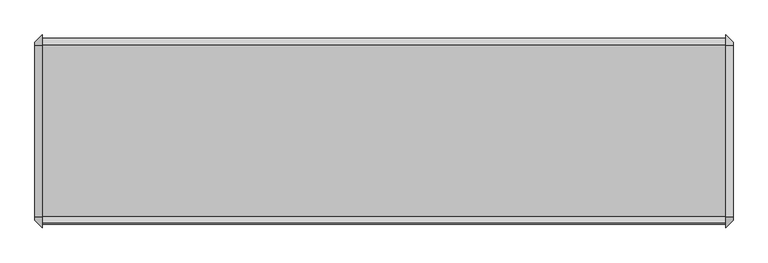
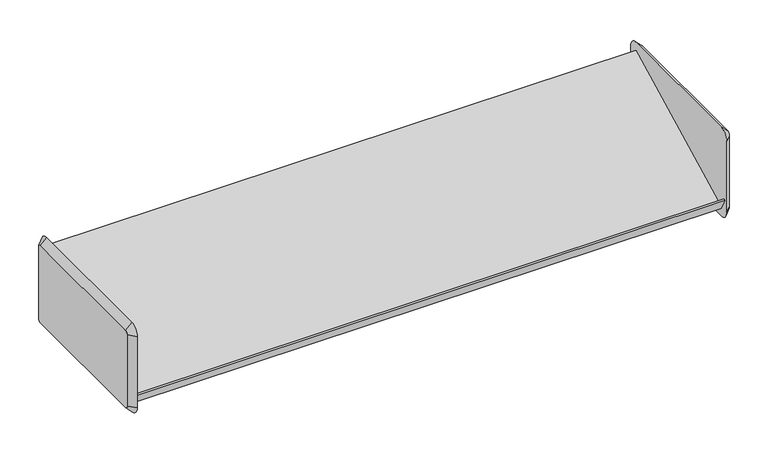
"""IFC4 building model written with IfcOpenShell, lengths in millimetres: furniture geometry."""

from ifc_helpers import new_model, si_unit, frame, origin, place, context, project, spatial, polyline, circle_curve, outline, extrude, source, transform, mapped, element, save
from ifc_brep_helpers import plane_surface, revolved_surface, advanced_brep


def furniture_1bbfda2c(model_context):
    return source(origin(), model_context, "Body", "SolidModel", [
        advanced_brep(
        [(485.6579955, 161.925, 1816.1), (485.6579955, -136.525, 1816.1), (485.6579955, -142.875, 1809.75), (485.6579955, -142.875, 1657.35), (485.6579955, -136.525, 1651.0), (485.6579955, 161.925, 1651.0), (485.6579955, 168.275, 1657.35), (485.6579955, 168.275, 1809.75), (472.9579955, 161.925, 1828.8), (472.9579955, 180.975, 1809.75), (472.9579955, 180.975, 1657.35), (472.9579955, 161.925, 1638.3), (472.9579955, -136.525, 1638.3), (472.9579955, -155.575, 1657.35), (472.9579955, -155.575, 1809.75), (472.9579955, -136.525, 1828.8)],
        [
            (0, 1),
            (1, 2, circle_curve(frame((485.6579955, -136.525, 1809.75), z_axis=(1.0, 2.0730084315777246e-12, -2.1529444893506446e-12), x_axis=(2.15291077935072e-12, 0.0, 1.0)), 6.35)),
            (2, 3),
            (3, 4, circle_curve(frame((485.6579955, -136.525, 1657.35), z_axis=(1.0, 2.0596857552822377e-12, 2.046363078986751e-12), x_axis=(2.059647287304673e-12, -1.0, 0.0)), 6.35)),
            (4, 5),
            (5, 6, circle_curve(frame((485.6579955, 161.925, 1657.35), z_axis=(1.0, 2.0889956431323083e-12, -2.06767936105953e-12), x_axis=(-2.0676547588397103e-12, 0.0, -1.0)), 6.35)),
            (6, 7),
            (7, 0, circle_curve(frame((485.6579955, 161.925, 1809.75), z_axis=(1.0, 2.0756729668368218e-12, 1.9824142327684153e-12), x_axis=(-2.0756622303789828e-12, 1.0, 0.0)), 6.35)),
            (8, 9, circle_curve(frame((472.9579955, 161.925, 1809.75), z_axis=(-1.0, -2.0756729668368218e-12, -1.9824142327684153e-12), x_axis=(-2.0756622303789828e-12, 1.0, 0.0)), 19.05)),
            (9, 10),
            (10, 11, circle_curve(frame((472.9579955, 161.925, 1657.35), z_axis=(-1.0, -2.0889956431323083e-12, 2.06767936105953e-12), x_axis=(-2.0676547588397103e-12, 0.0, -1.0)), 19.05)),
            (11, 12),
            (12, 13, circle_curve(frame((472.9579955, -136.525, 1657.35), z_axis=(-1.0, -2.0596857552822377e-12, -2.046363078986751e-12), x_axis=(2.059647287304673e-12, -1.0, 0.0)), 19.05)),
            (13, 14),
            (14, 15, circle_curve(frame((472.9579955, -136.525, 1809.75), z_axis=(-1.0, -2.0730084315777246e-12, 2.1529444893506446e-12), x_axis=(2.15291077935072e-12, 0.0, 1.0)), 19.05)),
            (15, 8),
            (15, 1),
            (0, 8),
            (14, 2),
            (13, 3),
            (12, 4),
            (11, 5),
            (10, 6),
            (9, 7),
        ],
        [
            plane_surface(frame((485.6579955, 12.7, 1733.55), z_axis=(1.0, 0.0, 0.0), x_axis=(0.0, -1.0, 0.0))),
            plane_surface(frame((472.9579955, 12.7, 1733.55), z_axis=(-1.0, 0.0, 0.0), x_axis=(0.0, -1.0, 0.0))),
            plane_surface(frame((472.9579955, 12.7, 1828.8), z_axis=(0.7071067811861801, 0.0, 0.707106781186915), x_axis=(0.0, -1.0, 0.0))),
            revolved_surface(polyline([(485.6579955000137, -136.525, 1816.0999999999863), (472.9579955, -136.525, 1828.8)]), (492.0079955, -136.525, 1809.75), (-1.0, -2.0730084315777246e-12, 2.1529444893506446e-12)),
            plane_surface(frame((472.9579955, -155.575, 1733.55), z_axis=(0.7071067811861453, -0.7071067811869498, 0.0), x_axis=(0.0, 0.0, -1.0))),
            revolved_surface(polyline([(485.6579955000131, -142.87499999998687, 1657.35), (472.9579955, -155.575, 1657.35)]), (492.0079955, -136.525, 1657.35), (-1.0, -2.0596857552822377e-12, -2.046363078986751e-12)),
            plane_surface(frame((472.9579955, 12.7, 1638.3), z_axis=(0.7071067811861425, 0.0, -0.7071067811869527), x_axis=(0.0, 1.0, 0.0))),
            revolved_surface(polyline([(485.65799550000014, 161.925, 1651.0), (472.9579954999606, 161.925, 1638.2999999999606)]), (492.0079955, 161.925, 1657.35), (-1.0, -2.0889956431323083e-12, 2.06767936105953e-12)),
            plane_surface(frame((472.9579955, 180.975, 1733.55), z_axis=(0.7071067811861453, 0.7071067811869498, 0.0), x_axis=(0.0, 0.0, 1.0))),
            revolved_surface(polyline([(485.6579955, 168.27499999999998, 1809.75), (472.9579954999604, 180.97500000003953, 1809.75)]), (492.0079955, 161.925, 1809.75), (-1.0, -2.0756729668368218e-12, -1.9824142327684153e-12)),
        ],
        [
            (0, [[1, 2, 3, 4, 5, 6, 7, 8]]),
            (1, [[9, 10, 11, 12, 13, 14, 15, 16]]),
            (2, [[-16, 17, -1, 18]]),
            (3, [[-15, 19, -2, -17]]),
            (4, [[-14, 20, -3, -19]]),
            (5, [[-13, 21, -4, -20]]),
            (6, [[-12, 22, -5, -21]]),
            (7, [[-11, 23, -6, -22]]),
            (8, [[-10, 24, -7, -23]]),
            (9, [[-9, -18, -8, -24]]),
        ],
    ),
        advanced_brep(
        [(-733.5420045, -136.525, 1816.1), (-733.5420045, 161.925, 1816.1), (-733.5420045, 168.275, 1809.75), (-733.5420045, 168.275, 1657.35), (-733.5420045, 161.925, 1651.0), (-733.5420045, -136.525, 1651.0), (-733.5420045, -142.875, 1657.35), (-733.5420045, -142.875, 1809.75), (-720.8420045, -136.525, 1828.8), (-720.8420045, -155.575, 1809.75), (-720.8420045, -155.575, 1657.35), (-720.8420045, -136.525, 1638.3), (-720.8420045, 161.925, 1638.3), (-720.8420045, 180.975, 1657.35), (-720.8420045, 180.975, 1809.75), (-720.8420045, 161.925, 1828.8)],
        [
            (0, 1),
            (1, 2, circle_curve(frame((-733.5420045, 161.925, 1809.75), z_axis=(-1.0, 0.0, 0.0), x_axis=(0.0, 0.0, 1.0)), 6.35)),
            (2, 3),
            (3, 4, circle_curve(frame((-733.5420045, 161.925, 1657.35), z_axis=(-1.0, 0.0, 0.0), x_axis=(0.0, 1.0, 0.0)), 6.35)),
            (4, 5),
            (5, 6, circle_curve(frame((-733.5420045, -136.525, 1657.35), z_axis=(-1.0, 0.0, 0.0), x_axis=(0.0, 0.0, -1.0)), 6.35)),
            (6, 7),
            (7, 0, circle_curve(frame((-733.5420045, -136.525, 1809.75), z_axis=(-1.0, 0.0, 0.0), x_axis=(0.0, -1.0, 0.0)), 6.35)),
            (8, 9, circle_curve(frame((-720.8420045, -136.525, 1809.75), z_axis=(1.0, 0.0, 0.0), x_axis=(0.0, -1.0, 0.0)), 19.05)),
            (9, 10),
            (10, 11, circle_curve(frame((-720.8420045, -136.525, 1657.35), z_axis=(1.0, 0.0, 0.0), x_axis=(0.0, 0.0, -1.0)), 19.05)),
            (11, 12),
            (12, 13, circle_curve(frame((-720.8420045, 161.925, 1657.35), z_axis=(1.0, 0.0, 0.0), x_axis=(0.0, 1.0, 0.0)), 19.05)),
            (13, 14),
            (14, 15, circle_curve(frame((-720.8420045, 161.925, 1809.75), z_axis=(1.0, 0.0, 0.0), x_axis=(0.0, 0.0, 1.0)), 19.05)),
            (15, 8),
            (15, 1),
            (0, 8),
            (14, 2),
            (13, 3),
            (12, 4),
            (11, 5),
            (10, 6),
            (9, 7),
        ],
        [
            plane_surface(frame((-733.5420045, 12.7, 1733.55), z_axis=(-1.0, 0.0, 0.0), x_axis=(0.0, -1.0, 0.0))),
            plane_surface(frame((-720.8420045, 12.7, 1733.55), z_axis=(1.0, 0.0, 0.0), x_axis=(0.0, -1.0, 0.0))),
            plane_surface(frame((-720.8420045, 12.7, 1828.8), z_axis=(-0.7071067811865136, 0.0, 0.7071067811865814), x_axis=(0.0, 1.0, 0.0))),
            revolved_surface(polyline([(-733.5420045, 161.925, 1816.1), (-720.8420045, 161.925, 1828.8)]), (-739.8920045, 161.925, 1809.75), (1.0, 0.0, 0.0)),
            plane_surface(frame((-720.8420045, 180.975, 1733.55), z_axis=(-0.7071067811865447, 0.7071067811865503, 0.0), x_axis=(0.0, 0.0, -1.0))),
            revolved_surface(polyline([(-733.5420045, 168.27500000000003, 1657.35), (-720.8420045, 180.975, 1657.35)]), (-739.8920045, 161.925, 1657.35), (1.0, 0.0, 0.0)),
            plane_surface(frame((-720.8420045, 12.7, 1638.3), z_axis=(-0.7071067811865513, 0.0, -0.7071067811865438), x_axis=(0.0, -1.0, 0.0))),
            revolved_surface(polyline([(-733.5420045, -136.525, 1651.0), (-720.8420045, -136.525, 1638.3)]), (-739.8920045, -136.525, 1657.35), (1.0, 0.0, 0.0)),
            plane_surface(frame((-720.8420045, -155.575, 1733.55), z_axis=(-0.7071067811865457, -0.7071067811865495, 0.0), x_axis=(0.0, 0.0, 1.0))),
            revolved_surface(polyline([(-733.5420045, -142.87500000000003, 1809.75), (-720.8420045, -155.575, 1809.75)]), (-739.8920045, -136.525, 1809.75), (1.0, 0.0, 0.0)),
        ],
        [
            (0, [[1, 2, 3, 4, 5, 6, 7, 8]]),
            (1, [[9, 10, 11, 12, 13, 14, 15, 16]]),
            (2, [[-16, 17, -1, 18]]),
            (3, [[-15, 19, -2, -17]]),
            (4, [[-14, 20, -3, -19]]),
            (5, [[-13, 21, -4, -20]]),
            (6, [[-12, 22, -5, -21]]),
            (7, [[-11, 23, -6, -22]]),
            (8, [[-10, 24, -7, -23]]),
            (9, [[-9, -18, -8, -24]]),
        ],
    ),
        extrude(outline(polyline([(-137.2094993, 1655.2179666), (-149.845093, 1679.6467844), (-147.0173828, 1681.0907216), (-135.8404765, 1659.4820334), (162.5893131, 1811.8717194), (175.2453599, 1788.2470972), (172.4171401, 1786.8028998), (161.2606869, 1807.6282806), (-137.2094993, 1655.2179666)])), frame((-720.8420045, 0.0, 0.0), z_axis=(1.0, 0.0, 0.0), x_axis=(0.0, 1.0, 0.0)), (0.0, 0.0, 1.0), 1193.8),
    ])


if __name__ == "__main__":
    model = new_model("IFC4")
    model_context = context("Model", 3, world=origin())
    ifc_project = project(units=[si_unit("LENGTHUNIT", "METRE", prefix="MILLI")], contexts=[model_context])
    site = spatial("IfcSite", under=ifc_project)
    building = spatial("IfcBuilding", under=site)
    placement = place(None, origin())
    furniture_shape = furniture_1bbfda2c(model_context)
    element("IfcFurniture", 1, ObjectType="HermanMiller_ActionOffice_A3220_B-StyleStorageDisplay : Display 13\"D x 48\"W", at=placement, inside=building, context=model_context, shape_type="MappedRepresentation", body=[
        mapped(furniture_shape, transform((0.0, 0.0, 0.0), x_axis=(1.0, 0.0, 0.0), y_axis=(0.0, 1.0, 0.0), z_axis=(0.0, 0.0, 1.0))),
    ])
    save(model, "model.ifc")
